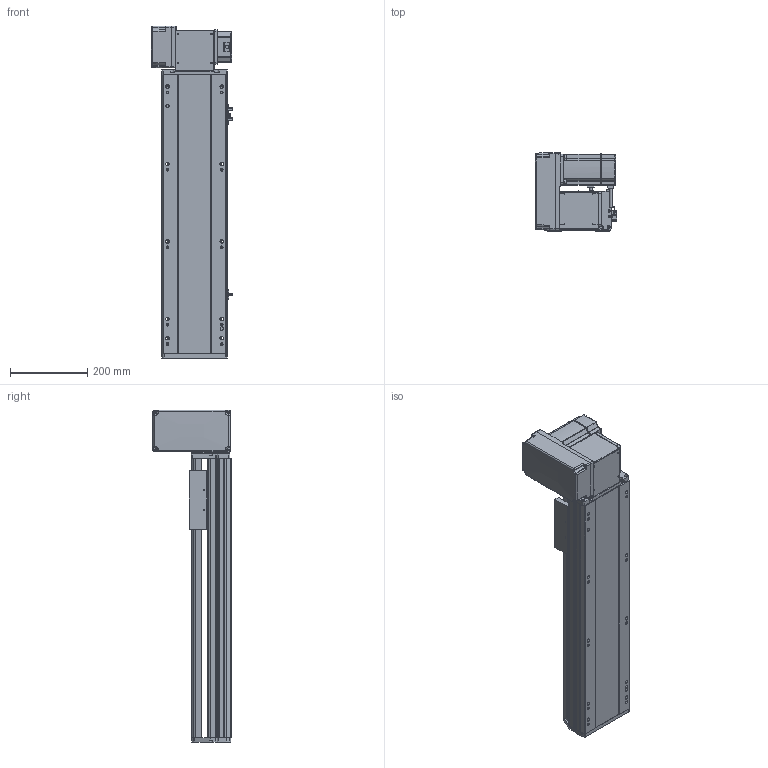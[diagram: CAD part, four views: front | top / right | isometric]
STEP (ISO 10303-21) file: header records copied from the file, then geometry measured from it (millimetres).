
FILE_DESCRIPTION (( 'STEP AP214' ), '1' );
FILE_NAME ('RTB17S-XX-450-LW-M75-C4.STEP', '2025-12-12T01:00:49', ( '' ), ( '' ), 'SwSTEP 2.0', 'SolidWorks 2018', '' );
FILE_SCHEMA (( 'AUTOMOTIVE_DESIGN' ));
Length unit declared in the file: millimetre
Products named in the file (15): RTB22S-GY-017P^RTB17S-LW-々湍釱蚾饜-750W_RTB17S-XX-XX-LW-M75-C4; EE672^RTB17S-XX-XX-LW-M75-C4; RTB17-R-011菁釱^RTB17S-XX-XX-LW-M75-C4; RTB17S-L-004-賑釱^RTB17S-賑釱_RTB17S-XX-XX-LW-M75-C4; RTB17S-L-014-T20-P75--々湍釱^RTB17S-LW-々湍釱蚾饜-750W_RTB17S-XX-XX-LW-M75-C4; RTB22S-GY-018P^RTB17S-LW-々湍釱蚾饜-750W_RTB17S-XX-XX-LW-M75-C4; RTB17S-L-007奻裔^RTB17S-XX-XX-LW-M75-C4; RTH13-BL-012覜茼え俋离^RTB17S-賑釱_RTB17S-XX-XX-LW-M75-C4; RTB22S-GY-005P^RTB17S-LW-々湍釱蚾饜-750W_RTB17S-XX-XX-LW-M75-C4; RTB17S-L-001-耜醱啣^RTB17S-XX-XX-LW-M75-C4; RTB22S-GY-008-M75--萇儂啣^RTB17S-LW-々湍釱蚾饜-750W_RTB17S-XX-XX-LW-M75-C4; RTB17S-XX-450-LW-M75-C4; RTB17S-賑釱^RTB17S-XX-XX-LW-M75-C4; 750W萇儂^RTB17S-XX-XX-LW-M75-C4; RTB17S-LW-々湍釱蚾饜-750W^RTB17S-XX-XX-LW-M75-C4
Assembly tree (17 placements, depth 3):
  RTB17S-XX-450-LW-M75-C4
    RTB17-R-011菁釱^RTB17S-XX-XX-LW-M75-C4
    EE672^RTB17S-XX-XX-LW-M75-C4  x3
    RTB17S-L-001-耜醱啣^RTB17S-XX-XX-LW-M75-C4
    RTB17S-賑釱^RTB17S-XX-XX-LW-M75-C4
      RTB17S-L-004-賑釱^RTB17S-賑釱_RTB17S-XX-XX-LW-M75-C4
      RTH13-BL-012覜茼え俋离^RTB17S-賑釱_RTB17S-XX-XX-LW-M75-C4
    RTB17S-L-007奻裔^RTB17S-XX-XX-LW-M75-C4
    750W萇儂^RTB17S-XX-XX-LW-M75-C4
    RTB17S-LW-々湍釱蚾饜-750W^RTB17S-XX-XX-LW-M75-C4
      RTB17S-L-014-T20-P75--々湍釱^RTB17S-LW-々湍釱蚾饜-750W_RTB17S-XX-XX-LW-M75-C4
      RTB22S-GY-005P^RTB17S-LW-々湍釱蚾饜-750W_RTB17S-XX-XX-LW-M75-C4
      RTB22S-GY-017P^RTB17S-LW-々湍釱蚾饜-750W_RTB17S-XX-XX-LW-M75-C4  x2
      RTB22S-GY-008-M75--萇儂啣^RTB17S-LW-々湍釱蚾饜-750W_RTB17S-XX-XX-LW-M75-C4
      RTB22S-GY-018P^RTB17S-LW-々湍釱蚾饜-750W_RTB17S-XX-XX-LW-M75-C4
Bounding box: 210.4 x 201.5 x 857.5 mm (x, y, z)
Volume: 8757759.5 mm3; surface area: 1397136.6 mm2
Topology: 17 solids, 17 shells, 2057 faces, 5674 edges, 3662 vertices
Faces by surface type: plane 966, cylinder 675, bspline 294, cone 110, sphere 8, torus 4
Entity records: 56566 total; most frequent: CARTESIAN_POINT 16538, ORIENTED_EDGE 8192, DIRECTION 7682, EDGE_CURVE 4096, AXIS2_PLACEMENT_3D 2682, VERTEX_POINT 2666, LINE 2318, VECTOR 2318
